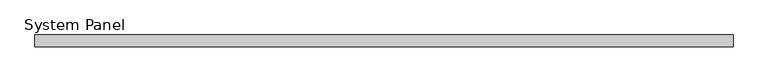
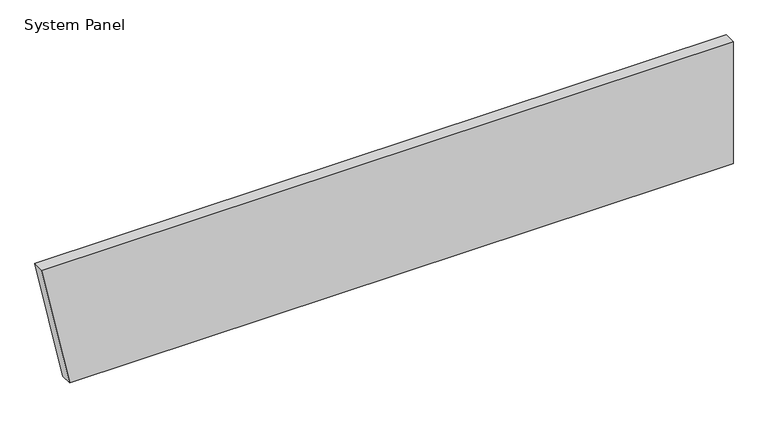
"""IFC4 building model written with IfcOpenShell, lengths in millimetres: plate geometry, System Panel : Inspire 100mm Horizontal - Plain RHEA-PIR."""

from ifc_helpers import new_model, si_unit, frame, origin, place, context, project, spatial, polyline, outline, extrude, source, transform, mapped, element, save


def system_panel_23496e82(model_context):
    return source(origin(), model_context, "Body", "SweptSolid", [
        extrude(outline(polyline([(0.0, -2709.5661783), (0.0, 2948.698535), (1100.0, 2948.698535), (1100.0, -2948.698535), (0.0, -2709.5661783)])), frame((0.0, -100.0, 0.0), z_axis=(0.0, 1.0, 0.0), x_axis=(0.0, 0.0, 1.0)), (0.0, 0.0, 1.0), 100.0),
    ])


if __name__ == "__main__":
    model = new_model("IFC4")
    model_context = context("Model", 3, world=origin())
    ifc_project = project(units=[si_unit("LENGTHUNIT", "METRE", prefix="MILLI")], contexts=[model_context])
    site = spatial("IfcSite", under=ifc_project)
    building = spatial("IfcBuilding", under=site)
    placement = place(None, origin())
    system_panel_shape = system_panel_23496e82(model_context)
    element("IfcPlate", 1, ObjectType="System Panel : Inspire 100mm Horizontal - Plain RHEA-PIR", at=placement, inside=building, context=model_context, shape_type="MappedRepresentation", body=[
        mapped(system_panel_shape, transform((0.0, 0.0, 0.0), x_axis=(1.0, 0.0, 0.0), y_axis=(0.0, 1.0, 0.0), z_axis=(0.0, 0.0, 1.0))),
    ])
    save(model, "model.ifc")
